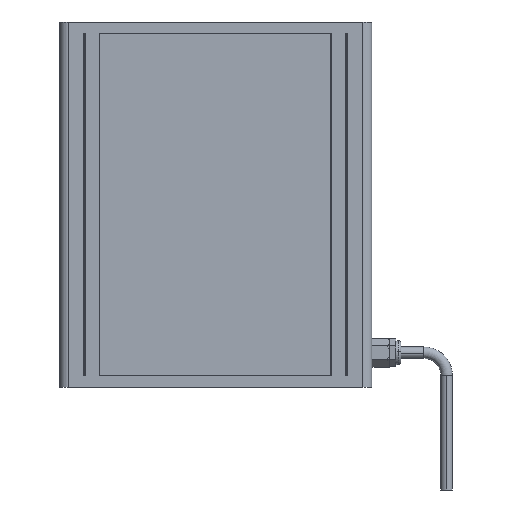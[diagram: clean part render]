
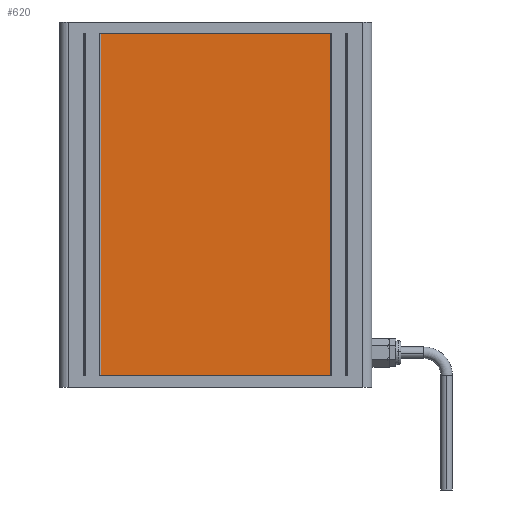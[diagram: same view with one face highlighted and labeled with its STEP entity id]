
A CAD part, front view. The second image highlights one B-rep face of the part: STEP entity #620.
In plain terms, the highlighted planar face has unit normal (0, -1, 0).
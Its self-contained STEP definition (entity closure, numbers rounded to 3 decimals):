
#11 = CARTESIAN_POINT ( 'NONE',  ( 182.428, -34.352, -38.046 ) ) ;
#91 = DIRECTION ( 'NONE',  ( 1., 0., 0. ) ) ;
#233 = EDGE_CURVE ( 'NONE', #10722, #1670, #6296, .T. ) ;
#620 = ADVANCED_FACE ( 'NONE', ( #3031 ), #12498, .F. ) ;
#659 = ORIENTED_EDGE ( 'NONE', *, *, #7717, .F. ) ;
#731 = CARTESIAN_POINT ( 'NONE',  ( 312.392, -34.352, -35.546 ) ) ;
#869 = VERTEX_POINT ( 'NONE', #4791 ) ;
#895 = DIRECTION ( 'NONE',  ( -1., 0., 0. ) ) ;
#954 = DIRECTION ( 'NONE',  ( 1., 0., 0. ) ) ;
#1003 = DIRECTION ( 'NONE',  ( 0., 0., -1. ) ) ;
#1137 = DIRECTION ( 'NONE',  ( 0., 0., -1. ) ) ;
#1670 = VERTEX_POINT ( 'NONE', #5862 ) ;
#2081 = DIRECTION ( 'NONE',  ( 0., 0., 1. ) ) ;
#2182 = CARTESIAN_POINT ( 'NONE',  ( 182.428, -34.352, 113.954 ) ) ;
#2315 = LINE ( 'NONE', #8762, #2704 ) ;
#2331 = LINE ( 'NONE', #11, #10988 ) ;
#2405 = VECTOR ( 'NONE', #91, 1000. ) ;
#2514 = VERTEX_POINT ( 'NONE', #11593 ) ;
#2560 = CARTESIAN_POINT ( 'NONE',  ( 183.16, -34.352, 113.954 ) ) ;
#2704 = VECTOR ( 'NONE', #6602, 1000. ) ;
#2831 = CARTESIAN_POINT ( 'NONE',  ( 184.16, -34.352, 116.454 ) ) ;
#3031 = FACE_OUTER_BOUND ( 'NONE', #10720, .T. ) ;
#3166 = ORIENTED_EDGE ( 'NONE', *, *, #233, .F. ) ;
#3174 = CARTESIAN_POINT ( 'NONE',  ( 183.16, -34.352, -35.546 ) ) ;
#3236 = LINE ( 'NONE', #4296, #6078 ) ;
#3402 = VECTOR ( 'NONE', #13760, 1000. ) ;
#3853 = VERTEX_POINT ( 'NONE', #8735 ) ;
#3911 = CARTESIAN_POINT ( 'NONE',  ( 311.66, -34.352, 113.954 ) ) ;
#3935 = CARTESIAN_POINT ( 'NONE',  ( 311.66, -34.352, -35.546 ) ) ;
#4020 = CARTESIAN_POINT ( 'NONE',  ( 312.392, -34.352, 113.954 ) ) ;
#4034 = LINE ( 'NONE', #7399, #9668 ) ;
#4296 = CARTESIAN_POINT ( 'NONE',  ( 182.428, -34.352, 116.454 ) ) ;
#4529 = LINE ( 'NONE', #7678, #6994 ) ;
#4791 = CARTESIAN_POINT ( 'NONE',  ( 183.16, -34.352, -35.546 ) ) ;
#5076 = CARTESIAN_POINT ( 'NONE',  ( 183.179, -34.352, -38.296 ) ) ;
#5192 = ORIENTED_EDGE ( 'NONE', *, *, #13774, .F. ) ;
#5205 = VECTOR ( 'NONE', #12961, 1000. ) ;
#5269 = VERTEX_POINT ( 'NONE', #731 ) ;
#5456 = ORIENTED_EDGE ( 'NONE', *, *, #9469, .F. ) ;
#5559 = DIRECTION ( 'NONE',  ( 0., 0., -1. ) ) ;
#5570 = CARTESIAN_POINT ( 'NONE',  ( 183.16, -34.352, -35.546 ) ) ;
#5597 = ORIENTED_EDGE ( 'NONE', *, *, #7475, .T. ) ;
#5855 = ORIENTED_EDGE ( 'NONE', *, *, #6238, .T. ) ;
#5862 = CARTESIAN_POINT ( 'NONE',  ( 312.392, -34.352, 116.454 ) ) ;
#5930 = ORIENTED_EDGE ( 'NONE', *, *, #8005, .T. ) ;
#5949 = VERTEX_POINT ( 'NONE', #7158 ) ;
#6078 = VECTOR ( 'NONE', #5559, 1000. ) ;
#6238 = EDGE_CURVE ( 'NONE', #5269, #8768, #8827, .T. ) ;
#6296 = LINE ( 'NONE', #2831, #9622 ) ;
#6602 = DIRECTION ( 'NONE',  ( 0., 0., 1. ) ) ;
#6904 = EDGE_CURVE ( 'NONE', #3853, #5269, #4034, .T. ) ;
#6994 = VECTOR ( 'NONE', #11948, 1000. ) ;
#7158 = CARTESIAN_POINT ( 'NONE',  ( 183.16, -34.352, 113.954 ) ) ;
#7316 = CARTESIAN_POINT ( 'NONE',  ( 182.428, -34.352, 116.454 ) ) ;
#7399 = CARTESIAN_POINT ( 'NONE',  ( 312.392, -34.352, -38.046 ) ) ;
#7414 = VECTOR ( 'NONE', #7474, 1000. ) ;
#7474 = DIRECTION ( 'NONE',  ( 1., 0., 0. ) ) ;
#7475 = EDGE_CURVE ( 'NONE', #2514, #10483, #2331, .T. ) ;
#7482 = EDGE_CURVE ( 'NONE', #10722, #11129, #3236, .T. ) ;
#7578 = VERTEX_POINT ( 'NONE', #3911 ) ;
#7678 = CARTESIAN_POINT ( 'NONE',  ( 311.66, -34.352, 113.954 ) ) ;
#7717 = EDGE_CURVE ( 'NONE', #11751, #7578, #8341, .T. ) ;
#8005 = EDGE_CURVE ( 'NONE', #11129, #5949, #10353, .T. ) ;
#8084 = ORIENTED_EDGE ( 'NONE', *, *, #6904, .T. ) ;
#8341 = LINE ( 'NONE', #12603, #13682 ) ;
#8522 = EDGE_CURVE ( 'NONE', #5949, #869, #10829, .T. ) ;
#8735 = CARTESIAN_POINT ( 'NONE',  ( 312.392, -34.352, -38.046 ) ) ;
#8762 = CARTESIAN_POINT ( 'NONE',  ( 312.392, -34.352, 116.454 ) ) ;
#8768 = VERTEX_POINT ( 'NONE', #3935 ) ;
#8827 = LINE ( 'NONE', #10937, #5205 ) ;
#9068 = CARTESIAN_POINT ( 'NONE',  ( 182.428, -34.352, -38.046 ) ) ;
#9213 = DIRECTION ( 'NONE',  ( -1., 0., 0. ) ) ;
#9239 = ORIENTED_EDGE ( 'NONE', *, *, #9292, .T. ) ;
#9292 = EDGE_CURVE ( 'NONE', #8768, #7578, #4529, .T. ) ;
#9469 = EDGE_CURVE ( 'NONE', #3853, #10483, #12559, .T. ) ;
#9553 = ORIENTED_EDGE ( 'NONE', *, *, #8522, .T. ) ;
#9622 = VECTOR ( 'NONE', #954, 1000. ) ;
#9668 = VECTOR ( 'NONE', #2081, 1000. ) ;
#9697 = LINE ( 'NONE', #5570, #2405 ) ;
#10353 = LINE ( 'NONE', #2560, #7414 ) ;
#10483 = VERTEX_POINT ( 'NONE', #9068 ) ;
#10720 = EDGE_LOOP ( 'NONE', ( #5456, #8084, #5855, #9239, #659, #13038, #3166, #11695, #5930, #9553, #5192, #5597 ) ) ;
#10722 = VERTEX_POINT ( 'NONE', #7316 ) ;
#10801 = VECTOR ( 'NONE', #1137, 1000. ) ;
#10829 = LINE ( 'NONE', #3174, #10801 ) ;
#10937 = CARTESIAN_POINT ( 'NONE',  ( 311.66, -34.352, -35.546 ) ) ;
#10988 = VECTOR ( 'NONE', #1003, 1000. ) ;
#11129 = VERTEX_POINT ( 'NONE', #2182 ) ;
#11188 = EDGE_CURVE ( 'NONE', #11751, #1670, #2315, .T. ) ;
#11593 = CARTESIAN_POINT ( 'NONE',  ( 182.428, -34.352, -35.546 ) ) ;
#11647 = CARTESIAN_POINT ( 'NONE',  ( 310.66, -34.352, -38.046 ) ) ;
#11695 = ORIENTED_EDGE ( 'NONE', *, *, #7482, .T. ) ;
#11751 = VERTEX_POINT ( 'NONE', #4020 ) ;
#11948 = DIRECTION ( 'NONE',  ( 0., 0., 1. ) ) ;
#12498 = PLANE ( 'NONE',  #13222 ) ;
#12559 = LINE ( 'NONE', #11647, #3402 ) ;
#12603 = CARTESIAN_POINT ( 'NONE',  ( 311.66, -34.352, 113.954 ) ) ;
#12961 = DIRECTION ( 'NONE',  ( -1., 0., 0. ) ) ;
#13038 = ORIENTED_EDGE ( 'NONE', *, *, #11188, .T. ) ;
#13222 = AXIS2_PLACEMENT_3D ( 'NONE', #5076, #13701, #9213 ) ;
#13682 = VECTOR ( 'NONE', #895, 1000. ) ;
#13701 = DIRECTION ( 'NONE',  ( 0., 1., 0. ) ) ;
#13760 = DIRECTION ( 'NONE',  ( -1., 0., 0. ) ) ;
#13774 = EDGE_CURVE ( 'NONE', #2514, #869, #9697, .T. ) ;
